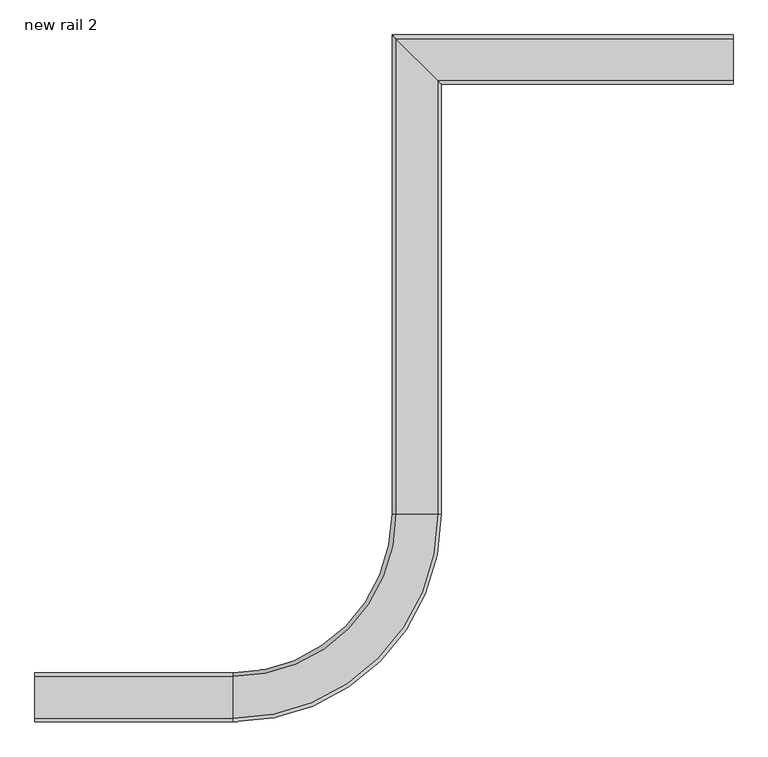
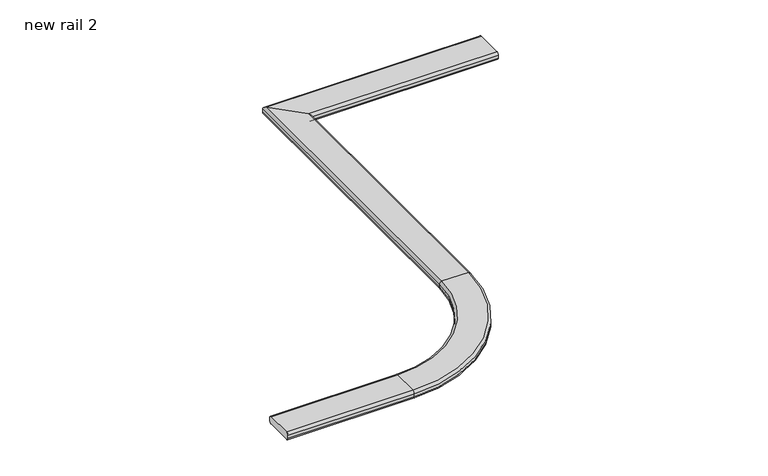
"""IFC4 building model written with IfcOpenShell, lengths in millimetres: railing geometry, new rail 2."""

from ifc_helpers import new_model, si_unit, point, frame, origin, place, context, project, spatial, polyline, circle_curve, ellipse_curve, trimmed, source, transform, mapped, element, save
from ifc_brep_helpers import plane_surface, cylinder_surface, revolved_surface, advanced_brep


def new_rail_2_90addaf1(model_context):
    return source(origin(), model_context, "Body", "AdvancedBrep", [
        advanced_brep(
        [(-700.8168854, -1708.5419088, 10925.4325168), (-700.8168854, -1693.5419088, 10940.4325168), (-700.8168854, -1693.5419088, 10960.4325168), (-700.8168854, -1708.5419088, 10975.4325168), (-700.8168854, -1878.5419088, 10975.4325168), (-700.8168854, -1893.5419088, 10960.4325168), (-700.8168854, -1893.5419088, 10940.4325168), (-700.8168854, -1878.5419088, 10925.4325168), (-2070.8168854, -1708.5419088, 10925.4325168), (-2085.8168854, -1693.5419088, 10940.4325168), (-2085.8168854, -1693.5419088, 10960.4325168), (-2070.8168854, -1708.5419088, 10975.4325168), (-1900.8168854, -1878.5419088, 10975.4325168), (-1885.8168854, -1893.5419088, 10960.4325168), (-1885.8168854, -1893.5419088, 10940.4325168), (-1900.8168854, -1878.5419088, 10925.4325168), (-2070.8168854, -3641.0920853, 10925.4325168), (-2085.8168854, -3641.0920853, 10940.4325168), (-2085.8168854, -3641.0920853, 10960.4325168), (-2070.8168854, -3641.0920853, 10975.4325168), (-1900.8168854, -3641.0920853, 10975.4325168), (-1885.8168854, -3641.0920853, 10960.4325168), (-1885.8168854, -3641.0920853, 10940.4325168), (-1900.8168854, -3641.0920853, 10925.4325168), (-2730.4525406, -4285.7277405, 10940.4325168), (-2730.4525406, -4300.7277405, 10925.4325168), (-2730.4525406, -4285.7277405, 10960.4325168), (-2730.4525406, -4300.7277405, 10975.4325168), (-2730.4525406, -4470.7277405, 10975.4325168), (-2730.4525406, -4485.7277405, 10960.4325168), (-2730.4525406, -4485.7277405, 10940.4325168), (-2730.4525406, -4470.7277405, 10925.4325168), (-3536.0979415, -4300.7277405, 10925.4325168), (-3536.0979415, -4470.7277405, 10925.4325168), (-3536.0979415, -4485.7277405, 10940.4325168), (-3536.0979415, -4485.7277405, 10960.4325168), (-3536.0979415, -4470.7277405, 10975.4325168), (-3536.0979415, -4300.7277405, 10975.4325168), (-3536.0979415, -4285.7277405, 10960.4325168), (-3536.0979415, -4285.7277405, 10940.4325168)],
        [
            (0, 1, circle_curve(frame((-700.8168854, -1708.5419088, 10940.4325168), z_axis=(1.0, 0.0, 0.0), x_axis=(0.0, -1.0, 0.0)), 15.0)),
            (1, 2),
            (2, 3, circle_curve(frame((-700.8168854, -1708.5419088, 10960.4325168), z_axis=(1.0, 0.0, 0.0), x_axis=(0.0, -1.0, 0.0)), 15.0)),
            (3, 4),
            (4, 5, circle_curve(frame((-700.8168854, -1878.5419088, 10960.4325168), z_axis=(1.0, 0.0, 0.0), x_axis=(0.0, 1.0, 0.0)), 15.0)),
            (5, 6),
            (6, 7, circle_curve(frame((-700.8168854, -1878.5419088, 10940.4325168), z_axis=(1.0, 0.0, 0.0), x_axis=(0.0, 1.0, 0.0)), 15.0)),
            (7, 0),
            (0, 8),
            (8, 9, ellipse_curve(frame((-2070.8168854, -1708.5419088, 10940.4325168), z_axis=(0.7071067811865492, 0.7071067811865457, 0.0), x_axis=(0.7071067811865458, -0.7071067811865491, 0.0)), 21.2132034, 15.0)),
            (9, 1),
            (9, 10),
            (10, 2),
            (10, 11, ellipse_curve(frame((-2070.8168854, -1708.5419088, 10960.4325168), z_axis=(0.7071067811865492, 0.7071067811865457, 0.0), x_axis=(0.7071067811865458, -0.7071067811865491, 0.0)), 21.2132034, 15.0)),
            (11, 3),
            (11, 12),
            (12, 4),
            (12, 13, ellipse_curve(frame((-1900.8168854, -1878.5419088, 10960.4325168), z_axis=(0.7071067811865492, 0.7071067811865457, 0.0), x_axis=(0.7071067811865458, -0.7071067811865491, 0.0)), 21.2132034, 15.0)),
            (13, 5),
            (13, 14),
            (14, 6),
            (14, 15, ellipse_curve(frame((-1900.8168854, -1878.5419088, 10940.4325168), z_axis=(0.7071067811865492, 0.7071067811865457, 0.0), x_axis=(0.7071067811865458, -0.7071067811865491, 0.0)), 21.2132034, 15.0)),
            (15, 7),
            (15, 8),
            (8, 16),
            (16, 17, circle_curve(frame((-2070.8168854, -3641.0920853, 10940.4325168), z_axis=(0.0, 1.0, 0.0), x_axis=(1.0, 0.0, 0.0)), 15.0)),
            (17, 9),
            (17, 18),
            (18, 10),
            (18, 19, circle_curve(frame((-2070.8168854, -3641.0920853, 10960.4325168), z_axis=(0.0, 1.0, 0.0), x_axis=(1.0, 0.0, 0.0)), 15.0)),
            (19, 11),
            (19, 20),
            (20, 12),
            (20, 21, circle_curve(frame((-1900.8168854, -3641.0920853, 10960.4325168), z_axis=(0.0, 1.0, 0.0), x_axis=(-1.0, 0.0, 0.0)), 15.0)),
            (21, 13),
            (21, 22),
            (22, 14),
            (22, 23, circle_curve(frame((-1900.8168854, -3641.0920853, 10940.4325168), z_axis=(0.0, 1.0, 0.0), x_axis=(-1.0, 0.0, 0.0)), 15.0)),
            (23, 15),
            (23, 16),
            (24, 17, circle_curve(frame((-2730.4525406, -3641.0920853, 10940.4325168), z_axis=(0.0, 0.0, 1.0), x_axis=(1.0, 0.0, 0.0)), 644.6356551)),
            (16, 25, circle_curve(frame((-2730.4525406, -3641.0920853, 10925.4325168), z_axis=(0.0, 0.0, -1.0), x_axis=(1.0, 0.0, 0.0)), 659.6356551)),
            (25, 24, circle_curve(frame((-2730.4525406, -4300.7277405, 10940.4325168), z_axis=(1.0, 0.0, 0.0), x_axis=(0.0, -1.0, 0.0)), 15.0)),
            (26, 18, circle_curve(frame((-2730.4525406, -3641.0920853, 10960.4325168), z_axis=(0.0, 0.0, 1.0), x_axis=(1.0, 0.0, 0.0)), 644.6356551)),
            (24, 26),
            (27, 19, circle_curve(frame((-2730.4525406, -3641.0920853, 10975.4325168), z_axis=(0.0, 0.0, 1.0), x_axis=(1.0, 0.0, 0.0)), 659.6356551)),
            (26, 27, circle_curve(frame((-2730.4525406, -4300.7277405, 10960.4325168), z_axis=(1.0, 0.0, 0.0), x_axis=(0.0, -1.0, 0.0)), 15.0)),
            (28, 20, circle_curve(frame((-2730.4525406, -3641.0920853, 10975.4325168), z_axis=(0.0, 0.0, 1.0), x_axis=(1.0, 0.0, 0.0)), 829.6356551)),
            (27, 28),
            (29, 21, circle_curve(frame((-2730.4525406, -3641.0920853, 10960.4325168), z_axis=(0.0, 0.0, 1.0), x_axis=(1.0, 0.0, 0.0)), 844.6356551)),
            (28, 29, circle_curve(frame((-2730.4525406, -4470.7277405, 10960.4325168), z_axis=(1.0, 0.0, 0.0), x_axis=(0.0, 1.0, 0.0)), 15.0)),
            (30, 22, circle_curve(frame((-2730.4525406, -3641.0920853, 10940.4325168), z_axis=(0.0, 0.0, 1.0), x_axis=(1.0, 0.0, 0.0)), 844.6356551)),
            (29, 30),
            (31, 23, circle_curve(frame((-2730.4525406, -3641.0920853, 10925.4325168), z_axis=(0.0, 0.0, 1.0), x_axis=(1.0, 0.0, 0.0)), 829.6356551)),
            (30, 31, circle_curve(frame((-2730.4525406, -4470.7277405, 10940.4325168), z_axis=(1.0, 0.0, 0.0), x_axis=(0.0, 1.0, 0.0)), 15.0)),
            (31, 25),
            (32, 33),
            (33, 34, circle_curve(frame((-3536.0979415, -4470.7277405, 10940.4325168), z_axis=(-1.0, 0.0, 0.0), x_axis=(0.0, 1.0, 0.0)), 15.0)),
            (34, 35),
            (35, 36, circle_curve(frame((-3536.0979415, -4470.7277405, 10960.4325168), z_axis=(-1.0, 0.0, 0.0), x_axis=(0.0, 1.0, 0.0)), 15.0)),
            (36, 37),
            (37, 38, circle_curve(frame((-3536.0979415, -4300.7277405, 10960.4325168), z_axis=(-1.0, 0.0, 0.0), x_axis=(0.0, -1.0, 0.0)), 15.0)),
            (38, 39),
            (39, 32, circle_curve(frame((-3536.0979415, -4300.7277405, 10940.4325168), z_axis=(-1.0, 0.0, 0.0), x_axis=(0.0, -1.0, 0.0)), 15.0)),
            (25, 32),
            (39, 24),
            (38, 26),
            (37, 27),
            (36, 28),
            (35, 29),
            (34, 30),
            (33, 31),
        ],
        [
            plane_surface(frame((-700.8168854, -1793.5419088, 10925.4325168), z_axis=(1.0, 0.0, 0.0), x_axis=(0.0, -1.0, 0.0))),
            cylinder_surface(frame((-700.8168854, -1708.5419088, 10940.4325168), z_axis=(1.0, 0.0, 0.0), x_axis=(0.0, -1.0, 0.0)), 15.0),
            plane_surface(frame((-700.8168854, -1693.5419088, 10940.4325168), z_axis=(0.0, 1.0, 0.0), x_axis=(-1.0, 0.0, 0.0))),
            cylinder_surface(frame((-700.8168854, -1708.5419088, 10960.4325168), z_axis=(1.0, 0.0, 0.0), x_axis=(0.0, -1.0, 0.0)), 15.0),
            plane_surface(frame((-700.8168854, -1708.5419088, 10975.4325168), z_axis=(0.0, 0.0, 1.0), x_axis=(-1.0, 0.0, 0.0))),
            cylinder_surface(frame((-700.8168854, -1878.5419088, 10960.4325168), z_axis=(1.0, 0.0, 0.0), x_axis=(0.0, 1.0, 0.0)), 15.0),
            plane_surface(frame((-700.8168854, -1893.5419088, 10960.4325168), z_axis=(0.0, -1.0, 0.0), x_axis=(-1.0, 0.0, 0.0))),
            cylinder_surface(frame((-700.8168854, -1878.5419088, 10940.4325168), z_axis=(1.0, 0.0, 0.0), x_axis=(0.0, 1.0, 0.0)), 15.0),
            plane_surface(frame((-700.8168854, -1878.5419088, 10925.4325168), z_axis=(0.0, 0.0, -1.0), x_axis=(-1.0, 0.0, 0.0))),
            cylinder_surface(frame((-2070.8168854, -1793.5419088, 10940.4325168), z_axis=(0.0, 1.0, 0.0), x_axis=(1.0, 0.0, 0.0)), 15.0),
            plane_surface(frame((-2085.8168854, -1693.5419088, 10940.4325168), z_axis=(-1.0, 0.0, 0.0), x_axis=(0.0, -1.0, 0.0))),
            cylinder_surface(frame((-2070.8168854, -1793.5419088, 10960.4325168), z_axis=(0.0, 1.0, 0.0), x_axis=(1.0, 0.0, 0.0)), 15.0),
            plane_surface(frame((-2070.8168854, -1708.5419088, 10975.4325168), z_axis=(0.0, 0.0, 1.0), x_axis=(0.0, -1.0, 0.0))),
            cylinder_surface(frame((-1900.8168854, -1793.5419088, 10960.4325168), z_axis=(0.0, 1.0, 0.0), x_axis=(-1.0, 0.0, 0.0)), 15.0),
            plane_surface(frame((-1885.8168854, -1893.5419088, 10960.4325168), z_axis=(1.0, 0.0, 0.0), x_axis=(0.0, -1.0, 0.0))),
            cylinder_surface(frame((-1900.8168854, -1793.5419088, 10940.4325168), z_axis=(0.0, 1.0, 0.0), x_axis=(-1.0, 0.0, 0.0)), 15.0),
            plane_surface(frame((-1900.8168854, -1878.5419088, 10925.4325168), z_axis=(0.0, 0.0, -1.0), x_axis=(0.0, -1.0, 0.0))),
            revolved_surface(trimmed(ellipse_curve(frame((-2070.8168854, -3641.0920853, 10940.4325168), z_axis=(0.0, 1.0, 0.0), x_axis=(1.0, 0.0, 0.0)), 15.0, 15.0), [point((-2070.8168854, -3641.0920853, 10925.4325168))], [point((-2085.8168854, -3641.0920853, 10940.4325168))], True, "CARTESIAN"), (-2730.4525406, -3641.0920853, 10925.4325168), (0.0, 0.0, -1.0)),
            revolved_surface(polyline([(-2085.8168855, -3641.0920853, 10940.4325168), (-2085.8168855, -3641.0920853, 10960.4325168)]), (-2730.4525406, -3641.0920853, 10925.4325168), (0.0, 0.0, -1.0)),
            revolved_surface(trimmed(ellipse_curve(frame((-2070.8168854, -3641.0920853, 10960.4325168), z_axis=(0.0, 1.0, 0.0), x_axis=(1.0, 0.0, 0.0)), 15.0, 15.0), [point((-2085.8168854, -3641.0920853, 10960.4325168))], [point((-2070.8168854, -3641.0920853, 10975.4325168))], True, "CARTESIAN"), (-2730.4525406, -3641.0920853, 10925.4325168), (0.0, 0.0, -1.0)),
            plane_surface(frame((-2730.4525406, -3641.0920853, 10975.4325168), z_axis=(0.0, 0.0, 1.0), x_axis=(1.0, 0.0, 0.0))),
            revolved_surface(trimmed(ellipse_curve(frame((-1900.8168854, -3641.0920853, 10960.4325168), z_axis=(0.0, 1.0, 0.0), x_axis=(-1.0, 0.0, 0.0)), 15.0, 15.0), [point((-1900.8168854, -3641.0920853, 10975.4325168))], [point((-1885.8168854, -3641.0920853, 10960.4325168))], True, "CARTESIAN"), (-2730.4525406, -3641.0920853, 10925.4325168), (0.0, 0.0, -1.0)),
            cylinder_surface(frame((-2730.4525406, -3641.0920853, 10925.4325168), z_axis=(0.0, 0.0, -1.0), x_axis=(1.0, 0.0, 0.0)), 844.6356551),
            revolved_surface(trimmed(ellipse_curve(frame((-1900.8168854, -3641.0920853, 10940.4325168), z_axis=(0.0, 1.0, 0.0), x_axis=(-1.0, 0.0, 0.0)), 15.0, 15.0), [point((-1885.8168854, -3641.0920853, 10940.4325168))], [point((-1900.8168854, -3641.0920853, 10925.4325168))], True, "CARTESIAN"), (-2730.4525406, -3641.0920853, 10925.4325168), (0.0, 0.0, -1.0)),
            plane_surface(frame((-2730.4525406, -3641.0920853, 10925.4325168), z_axis=(0.0, 0.0, -1.0), x_axis=(1.0, 0.0, 0.0))),
            plane_surface(frame((-3536.0979415, -4385.7277405, 10925.4325168), z_axis=(-1.0, 0.0, 0.0), x_axis=(0.0, -1.0, 0.0))),
            cylinder_surface(frame((-2730.4525406, -4300.7277405, 10940.4325168), z_axis=(1.0, 0.0, 0.0), x_axis=(0.0, -1.0, 0.0)), 15.0),
            plane_surface(frame((-2730.4525406, -4285.7277405, 10940.4325168), z_axis=(0.0, 1.0, 0.0), x_axis=(-1.0, 0.0, 0.0))),
            cylinder_surface(frame((-2730.4525406, -4300.7277405, 10960.4325168), z_axis=(1.0, 0.0, 0.0), x_axis=(0.0, -1.0, 0.0)), 15.0),
            plane_surface(frame((-2730.4525406, -4300.7277405, 10975.4325168), z_axis=(0.0, 0.0, 1.0), x_axis=(-1.0, 0.0, 0.0))),
            cylinder_surface(frame((-2730.4525406, -4470.7277405, 10960.4325168), z_axis=(1.0, 0.0, 0.0), x_axis=(0.0, 1.0, 0.0)), 15.0),
            plane_surface(frame((-2730.4525406, -4485.7277405, 10960.4325168), z_axis=(0.0, -1.0, 0.0), x_axis=(-1.0, 0.0, 0.0))),
            cylinder_surface(frame((-2730.4525406, -4470.7277405, 10940.4325168), z_axis=(1.0, 0.0, 0.0), x_axis=(0.0, 1.0, 0.0)), 15.0),
            plane_surface(frame((-2730.4525406, -4470.7277405, 10925.4325168), z_axis=(0.0, 0.0, -1.0), x_axis=(-1.0, 0.0, 0.0))),
        ],
        [
            (0, [[1, 2, 3, 4, 5, 6, 7, 8]]),
            (1, [[-1, 9, 10, 11]]),
            (2, [[-2, -11, 12, 13]]),
            (3, [[-3, -13, 14, 15]]),
            (4, [[-4, -15, 16, 17]]),
            (5, [[-5, -17, 18, 19]]),
            (6, [[-6, -19, 20, 21]]),
            (7, [[-7, -21, 22, 23]]),
            (8, [[-8, -23, 24, -9]]),
            (9, [[-10, 25, 26, 27]]),
            (10, [[-12, -27, 28, 29]]),
            (11, [[-14, -29, 30, 31]]),
            (12, [[-16, -31, 32, 33]]),
            (13, [[-18, -33, 34, 35]]),
            (14, [[-20, -35, 36, 37]]),
            (15, [[-22, -37, 38, 39]]),
            (16, [[-24, -39, 40, -25]]),
            (17, [[41, -26, 42, 43]]),
            (18, [[44, -28, -41, 45]]),
            (19, [[46, -30, -44, 47]]),
            (20, [[48, -32, -46, 49]]),
            (21, [[50, -34, -48, 51]]),
            (22, [[52, -36, -50, 53]]),
            (23, [[54, -38, -52, 55]]),
            (24, [[-42, -40, -54, 56]]),
            (25, [[57, 58, 59, 60, 61, 62, 63, 64]]),
            (26, [[-43, 65, -64, 66]]),
            (27, [[-45, -66, -63, 67]]),
            (28, [[-47, -67, -62, 68]]),
            (29, [[-49, -68, -61, 69]]),
            (30, [[-51, -69, -60, 70]]),
            (31, [[-53, -70, -59, 71]]),
            (32, [[-55, -71, -58, 72]]),
            (33, [[-56, -72, -57, -65]]),
        ],
    ),
    ])


if __name__ == "__main__":
    model = new_model("IFC4")
    model_context = context("Model", 3, world=origin())
    ifc_project = project(units=[si_unit("LENGTHUNIT", "METRE", prefix="MILLI")], contexts=[model_context])
    site = spatial("IfcSite", under=ifc_project)
    building = spatial("IfcBuilding", under=site)
    placement = place(None, origin())
    new_rail_2_shape = new_rail_2_90addaf1(model_context)
    element("IfcRailing", 1, ObjectType="new rail 2", at=placement, inside=building, context=model_context, shape_type="MappedRepresentation", body=[
        mapped(new_rail_2_shape, transform((0.0, 0.0, 0.0), x_axis=(1.0, 0.0, 0.0), y_axis=(0.0, 1.0, 0.0), z_axis=(0.0, 0.0, 1.0))),
    ])
    save(model, "model.ifc")
